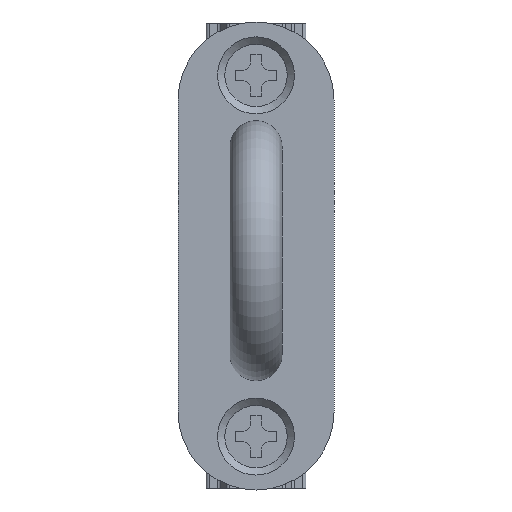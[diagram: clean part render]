
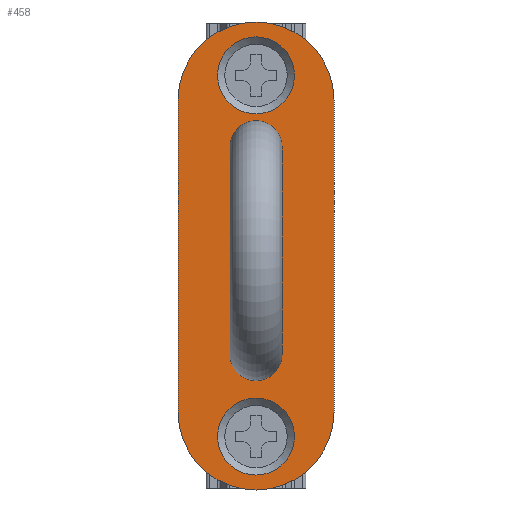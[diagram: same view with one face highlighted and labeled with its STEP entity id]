
A CAD part, left-side view. The second image highlights one B-rep face of the part: STEP entity #458.
In plain terms, the highlighted planar face has unit normal (-1, 0, 0) as drawn and (0, 0, -1) by its records, which use the part's own axes.
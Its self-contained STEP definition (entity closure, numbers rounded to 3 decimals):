
#458=ADVANCED_FACE('',(#851,#852,#853,#854,#855),#856,.F.);
#851=FACE_BOUND('',#1209,.T.);
#852=FACE_BOUND('',#1210,.T.);
#853=FACE_BOUND('',#1211,.T.);
#854=FACE_BOUND('',#1212,.T.);
#855=FACE_OUTER_BOUND('',#1213,.T.);
#856=PLANE('',#1214);
#1209=EDGE_LOOP('',(#2167));
#1210=EDGE_LOOP('',(#2168));
#1211=EDGE_LOOP('',(#2169));
#1212=EDGE_LOOP('',(#2170));
#1213=EDGE_LOOP('',(#2171,#2172,#2173,#2174));
#1214=AXIS2_PLACEMENT_3D('',#2175,#2176,#2177);
#2167=ORIENTED_EDGE('',*,*,#2261,.T.);
#2168=ORIENTED_EDGE('',*,*,#2304,.T.);
#2169=ORIENTED_EDGE('',*,*,#2365,.F.);
#2170=ORIENTED_EDGE('',*,*,#2232,.F.);
#2171=ORIENTED_EDGE('',*,*,#2520,.F.);
#2172=ORIENTED_EDGE('',*,*,#2198,.F.);
#2173=ORIENTED_EDGE('',*,*,#2434,.F.);
#2174=ORIENTED_EDGE('',*,*,#2543,.F.);
#2175=CARTESIAN_POINT('',(7.5,7.5,18.0));
#2176=DIRECTION('',(0.0,0.0,1.0));
#2177=DIRECTION('',(1.0,0.0,0.0));
#2198=EDGE_CURVE('',#2579,#2580,#2581,.T.);
#2232=EDGE_CURVE('',#2643,#2643,#2644,.T.);
#2261=EDGE_CURVE('',#2696,#2696,#2697,.T.);
#2304=EDGE_CURVE('',#2766,#2766,#2767,.T.);
#2365=EDGE_CURVE('',#2866,#2866,#2867,.T.);
#2434=EDGE_CURVE('',#2967,#2579,#2968,.T.);
#2520=EDGE_CURVE('',#2580,#3077,#3078,.T.);
#2543=EDGE_CURVE('',#3077,#2967,#3104,.T.);
#2579=VERTEX_POINT('',#3146);
#2580=VERTEX_POINT('',#3147);
#2581=LINE('',#3148,#3149);
#2643=VERTEX_POINT('',#3228);
#2644=CIRCLE('',#3229,3.7);
#2696=VERTEX_POINT('',#3298);
#2697=CIRCLE('',#3299,2.5);
#2766=VERTEX_POINT('',#3393);
#2767=CIRCLE('',#3394,2.5);
#2866=VERTEX_POINT('',#3520);
#2867=CIRCLE('',#3521,3.7);
#2967=VERTEX_POINT('',#3675);
#2968=CIRCLE('',#3676,7.5);
#3077=VERTEX_POINT('',#3846);
#3078=CIRCLE('',#3847,7.5);
#3104=LINE('',#3878,#3879);
#3146=CARTESIAN_POINT('',(37.5,15.0,18.0));
#3147=CARTESIAN_POINT('',(7.5,15.0,18.0));
#3148=CARTESIAN_POINT('',(37.5,15.0,18.0));
#3149=VECTOR('',#3915,1.0);
#3228=CARTESIAN_POINT('',(5.128,3.8,18.0));
#3229=AXIS2_PLACEMENT_3D('',#3969,#3970,#3971);
#3298=CARTESIAN_POINT('',(34.491,7.5,18.0));
#3299=AXIS2_PLACEMENT_3D('',#4010,#4011,#4012);
#3393=CARTESIAN_POINT('',(14.491,7.5,18.0));
#3394=AXIS2_PLACEMENT_3D('',#4059,#4060,#4061);
#3520=CARTESIAN_POINT('',(39.865,3.8,18.0));
#3521=AXIS2_PLACEMENT_3D('',#4146,#4147,#4148);
#3675=CARTESIAN_POINT('',(37.5,0.0,18.0));
#3676=AXIS2_PLACEMENT_3D('',#4216,#4217,#4218);
#3846=CARTESIAN_POINT('',(7.5,0.0,18.0));
#3847=AXIS2_PLACEMENT_3D('',#4305,#4306,#4307);
#3878=CARTESIAN_POINT('',(7.5,0.0,18.0));
#3879=VECTOR('',#4331,1.0);
#3915=DIRECTION('',(-1.0,0.0,0.0));
#3969=CARTESIAN_POINT('',(5.128,7.5,18.0));
#3970=DIRECTION('',(0.0,0.,-1.0));
#3971=DIRECTION('',(0.0,-1.0,0.));
#4010=CARTESIAN_POINT('',(31.991,7.5,18.0));
#4011=DIRECTION('',(0.0,0.0,1.0));
#4012=DIRECTION('',(1.0,0.0,0.0));
#4059=CARTESIAN_POINT('',(11.991,7.5,18.0));
#4060=DIRECTION('',(0.0,0.0,1.0));
#4061=DIRECTION('',(1.0,0.0,0.0));
#4146=CARTESIAN_POINT('',(39.865,7.5,18.0));
#4147=DIRECTION('',(0.0,0.,-1.0));
#4148=DIRECTION('',(0.0,-1.0,0.));
#4216=CARTESIAN_POINT('',(37.5,7.5,18.0));
#4217=DIRECTION('',(0.0,0.0,1.0));
#4218=DIRECTION('',(1.0,0.0,0.0));
#4305=CARTESIAN_POINT('',(7.5,7.5,18.0));
#4306=DIRECTION('',(0.0,0.0,1.0));
#4307=DIRECTION('',(1.0,0.0,0.0));
#4331=DIRECTION('',(1.0,0.0,0.0));
